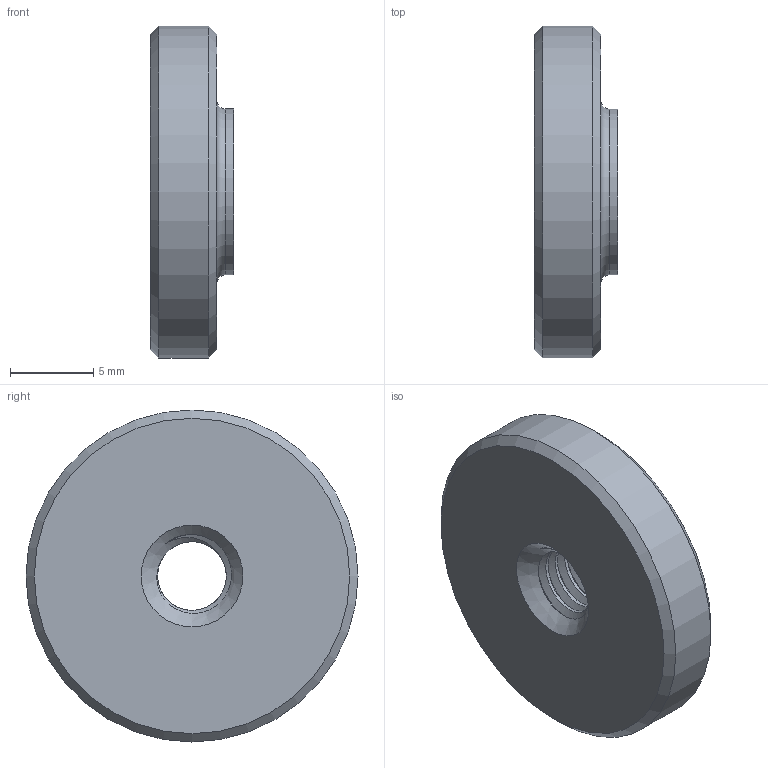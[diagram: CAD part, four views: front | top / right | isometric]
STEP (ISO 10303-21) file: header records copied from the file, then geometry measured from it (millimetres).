
FILE_DESCRIPTION(('STEP AP203'), '1');
FILE_NAME('À00083.105', '2025-03-17T10:14:37', ('1'), (''), 'C3D Converter', 'C3D Toolkit', '');
FILE_SCHEMA(('CONFIG_CONTROL_DESIGN'));
Length unit declared in the file: millimetre
Products named in the file (1): А00083.105
Bounding box: 5 x 20 x 20 mm (x, y, z)
Volume: 1230.2 mm3; surface area: 926.8 mm2
Topology: 1 solids, 1 shells, 17 faces, 40 edges, 29 vertices
Faces by surface type: cylinder 6, cone 4, bspline 3, plane 3, torus 1
Full cylindrical faces by diameter (mm): 4.134 x4, 10 x1, 20 x1
Entity records: 4752 total; most frequent: CARTESIAN_POINT 4241, ORIENTED_EDGE 64, DIRECTION 55, EDGE_CURVE 32, EDGE_LOOP 27, AXIS2_PLACEMENT_3D 26, VERTEX_POINT 25, COLOUR_RGB 19
